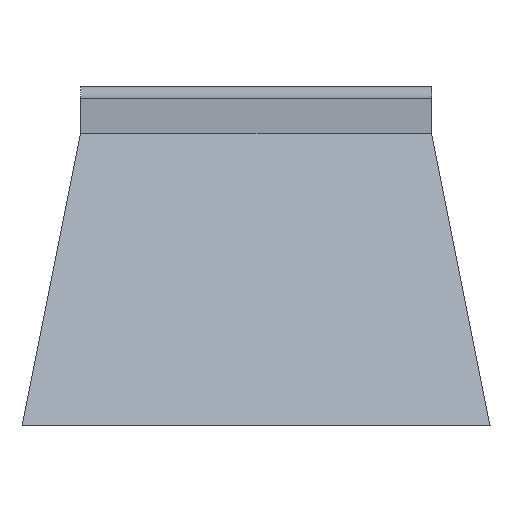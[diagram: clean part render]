
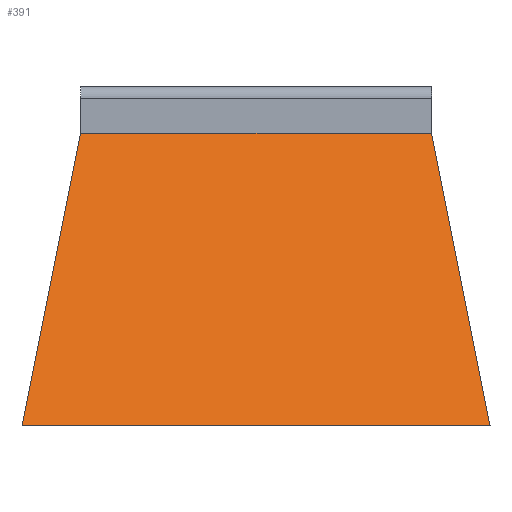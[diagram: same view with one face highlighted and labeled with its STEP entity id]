
A CAD part, left-side view. The second image highlights one B-rep face of the part: STEP entity #391.
In plain terms, the highlighted planar face has unit normal (-0.928, 0, 0.371).
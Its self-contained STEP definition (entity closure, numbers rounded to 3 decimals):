
#33=PLANE('',#431);
#55=FACE_OUTER_BOUND('',#79,.T.);
#79=EDGE_LOOP('',(#355,#356,#357,#358));
#112=LINE('',#606,#160);
#123=LINE('',#630,#171);
#127=LINE('',#637,#175);
#128=LINE('',#638,#176);
#160=VECTOR('',#496,10.);
#171=VECTOR('',#521,10.);
#175=VECTOR('',#527,10.);
#176=VECTOR('',#528,10.);
#193=VERTEX_POINT('',#562);
#202=VERTEX_POINT('',#584);
#211=VERTEX_POINT('',#628);
#212=VERTEX_POINT('',#629);
#248=EDGE_CURVE('',#193,#202,#112,.T.);
#259=EDGE_CURVE('',#211,#212,#123,.T.);
#263=EDGE_CURVE('',#211,#193,#127,.T.);
#264=EDGE_CURVE('',#212,#202,#128,.T.);
#355=ORIENTED_EDGE('',*,*,#259,.F.);
#356=ORIENTED_EDGE('',*,*,#263,.T.);
#357=ORIENTED_EDGE('',*,*,#248,.T.);
#358=ORIENTED_EDGE('',*,*,#264,.F.);
#391=ADVANCED_FACE('',(#55),#33,.F.);
#431=AXIS2_PLACEMENT_3D('',#636,#525,#526);
#496=DIRECTION('',(0.,1.,0.));
#521=DIRECTION('',(0.,1.,0.));
#525=DIRECTION('center_axis',(0.928,0.,-0.371));
#526=DIRECTION('ref_axis',(-0.371,0.,-0.928));
#527=DIRECTION('',(0.365,0.183,0.913));
#528=DIRECTION('',(0.365,-0.183,0.913));
#562=CARTESIAN_POINT('',(-20.,-15.,0.));
#584=CARTESIAN_POINT('',(-20.,15.,0.));
#606=CARTESIAN_POINT('',(-20.,-15.,0.));
#628=CARTESIAN_POINT('',(-30.,-20.,-25.));
#629=CARTESIAN_POINT('',(-30.,20.,-25.));
#630=CARTESIAN_POINT('',(-30.,-20.,-25.));
#636=CARTESIAN_POINT('Origin',(-30.,-20.,-25.));
#637=CARTESIAN_POINT('',(-30.,-20.,-25.));
#638=CARTESIAN_POINT('',(-30.,20.,-25.));
